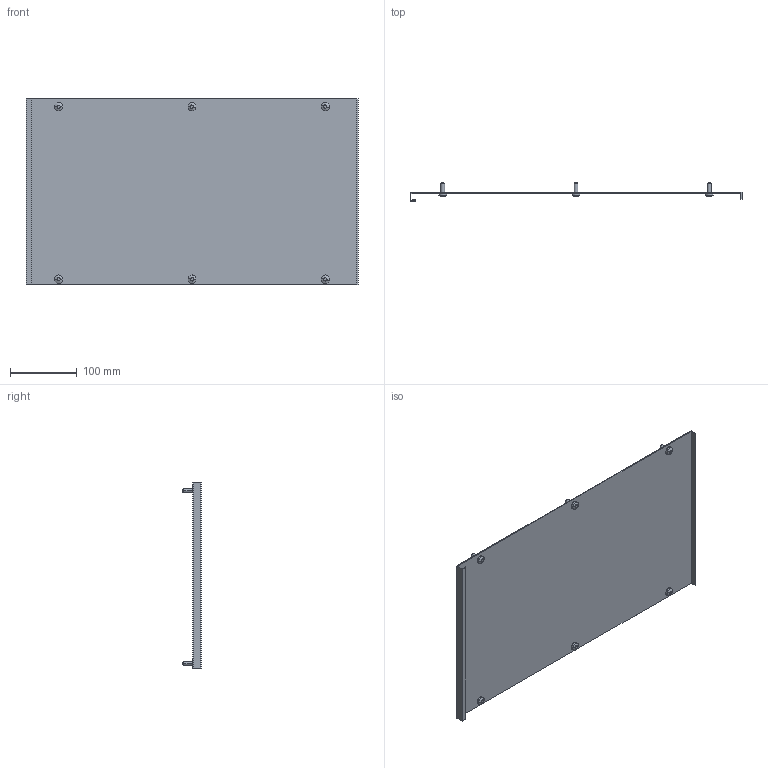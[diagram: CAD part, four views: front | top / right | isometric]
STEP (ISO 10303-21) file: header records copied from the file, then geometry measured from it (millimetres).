
FILE_DESCRIPTION (( 'STEP AP214' ), '1' );
FILE_NAME ('FO-00-PVS-050-040 Ïëàñòðîí ãëóõîé âíóòðåííèé 500õ400.STEP', '2025-09-30T07:40:20', ( '' ), ( '' ), 'SwSTEP 2.0', 'SolidWorks 2023', '' );
FILE_SCHEMA (( 'AUTOMOTIVE_DESIGN' ));
Length unit declared in the file: millimetre
Products named in the file (3): FO-00-PVS-050-040 Пластрон глухой внутренний 500х400; Винт M6x16 050 IEK
Assembly tree (3 placements, depth 2):
  FO-00-PVS-050-040 Пластрон глухой внутренний 500х400
    FO-00-PVS-050-040 Пластрон глухой внутренний 500х400
    Винт M6x16 050 IEK  x2
Bounding box: 498 x 27 x 279 mm (x, y, z)
Volume: 223560.8 mm3; surface area: 298374.7 mm2
Topology: 7 solids, 7 shells, 214 faces, 558 edges, 364 vertices
Faces by surface type: cylinder 132, plane 52, cone 18, bspline 12
Entity records: 4464 total; most frequent: CARTESIAN_POINT 1022, ORIENTED_EDGE 708, DIRECTION 692, EDGE_CURVE 354, AXIS2_PLACEMENT_3D 256, VERTEX_POINT 232, LINE 180, VECTOR 180
